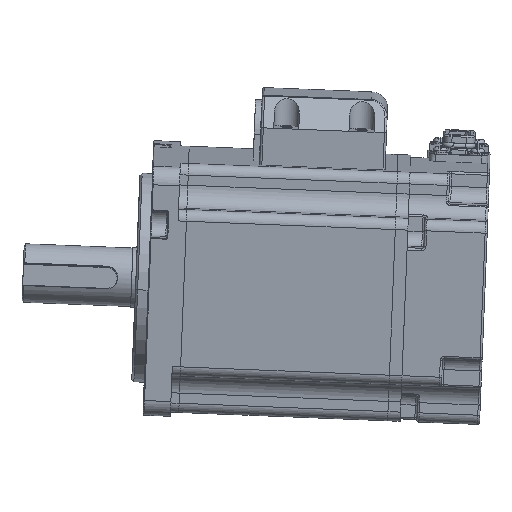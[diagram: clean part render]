
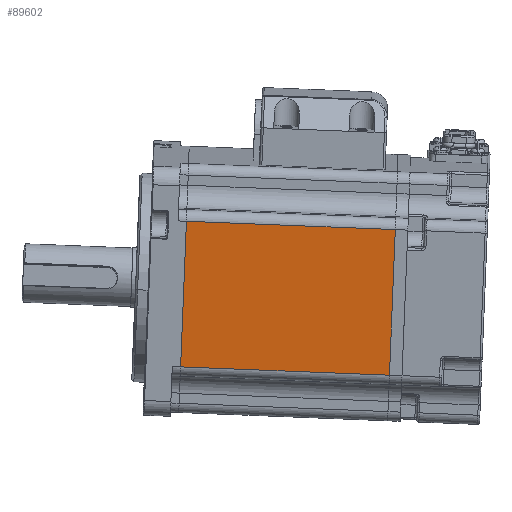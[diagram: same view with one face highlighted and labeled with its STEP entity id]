
A CAD part, front view. The second image highlights one B-rep face of the part: STEP entity #89602.
In plain terms, the highlighted planar face has unit normal (-0.003, -0.993, -0.117) as drawn and (-1, 0, 0) by its records, which use the part's own axes.
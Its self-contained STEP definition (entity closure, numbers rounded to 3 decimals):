
#5882 = VERTEX_POINT ( 'NONE', #141923 ) ;
#9057 = EDGE_CURVE ( 'NONE', #5882, #78827, #26963, .T. ) ;
#9546 = DIRECTION ( 'NONE',  ( 0., 0., -1. ) ) ;
#9563 = DIRECTION ( 'NONE',  ( 0., -1., 0. ) ) ;
#9836 = DIRECTION ( 'NONE',  ( 0., 0., -1. ) ) ;
#11641 = EDGE_CURVE ( 'NONE', #132220, #78827, #89554, .T. ) ;
#21305 = CARTESIAN_POINT ( 'NONE',  ( -30., -17.55, 50. ) ) ;
#23128 = EDGE_CURVE ( 'NONE', #93241, #132220, #87129, .T. ) ;
#26963 = LINE ( 'NONE', #108267, #104915 ) ;
#27932 = CARTESIAN_POINT ( 'NONE',  ( -30., -17.55, 0. ) ) ;
#29652 = AXIS2_PLACEMENT_3D ( 'NONE', #115895, #67748, #9836 ) ;
#35793 = CARTESIAN_POINT ( 'NONE',  ( -30., -17.55, 50. ) ) ;
#38827 = DIRECTION ( 'NONE',  ( 0., -1., 0. ) ) ;
#51581 = LINE ( 'NONE', #67092, #124324 ) ;
#55972 = DIRECTION ( 'NONE',  ( 0., 0., -1. ) ) ;
#57612 = PLANE ( 'NONE',  #29652 ) ;
#59637 = CARTESIAN_POINT ( 'NONE',  ( -30., 17.55, 50. ) ) ;
#67092 = CARTESIAN_POINT ( 'NONE',  ( -30., 17.55, 50. ) ) ;
#67748 = DIRECTION ( 'NONE',  ( 1., 0., 0. ) ) ;
#68974 = VECTOR ( 'NONE', #9563, 1000. ) ;
#74243 = FACE_OUTER_BOUND ( 'NONE', #136903, .T. ) ;
#78827 = VERTEX_POINT ( 'NONE', #27932 ) ;
#87129 = LINE ( 'NONE', #21305, #68974 ) ;
#89554 = LINE ( 'NONE', #115608, #147670 ) ;
#89602 = ADVANCED_FACE ( 'NONE', ( #74243 ), #57612, .F. ) ;
#93241 = VERTEX_POINT ( 'NONE', #59637 ) ;
#97996 = ORIENTED_EDGE ( 'NONE', *, *, #11641, .F. ) ;
#104915 = VECTOR ( 'NONE', #38827, 1000. ) ;
#108267 = CARTESIAN_POINT ( 'NONE',  ( -30., -17.55, 0. ) ) ;
#115608 = CARTESIAN_POINT ( 'NONE',  ( -30., -17.55, 50. ) ) ;
#115895 = CARTESIAN_POINT ( 'NONE',  ( -30., -17.55, 50. ) ) ;
#124324 = VECTOR ( 'NONE', #55972, 1000. ) ;
#126628 = ORIENTED_EDGE ( 'NONE', *, *, #23128, .F. ) ;
#130405 = ORIENTED_EDGE ( 'NONE', *, *, #9057, .T. ) ;
#130984 = EDGE_CURVE ( 'NONE', #93241, #5882, #51581, .T. ) ;
#132220 = VERTEX_POINT ( 'NONE', #35793 ) ;
#136903 = EDGE_LOOP ( 'NONE', ( #130405, #97996, #126628, #149596 ) ) ;
#141923 = CARTESIAN_POINT ( 'NONE',  ( -30., 17.55, 0. ) ) ;
#147670 = VECTOR ( 'NONE', #9546, 1000. ) ;
#149596 = ORIENTED_EDGE ( 'NONE', *, *, #130984, .T. ) ;
